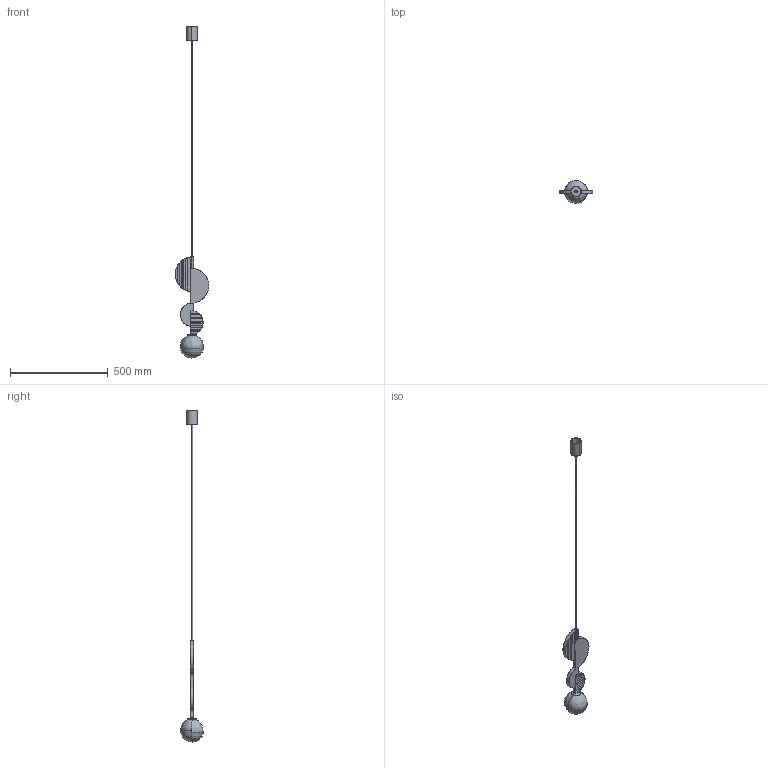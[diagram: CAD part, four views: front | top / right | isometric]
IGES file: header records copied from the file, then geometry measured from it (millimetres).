
Start section: SolidWorks IGES file using analytic representation for surfaces
Global section: file name: C:\Users\anna.bielnik\Desktop\DROPS COLOR A-\NL2500001329.IGS; native system: SolidWorks 2024; preprocessor: SolidWorks 2024; author: anna.bielnik; date: 251201.104958; units: millimetre
Bounding box: 170.69 x 119.11 x 1700.07 mm (x, y, z)
Surface area: 247539.2 mm2 (no closed solid volume)
Topology: 0 solids, 0 shells, 122 faces, 2171 edges, 2168 vertices
Faces by surface type: revolution 61, bspline 61
